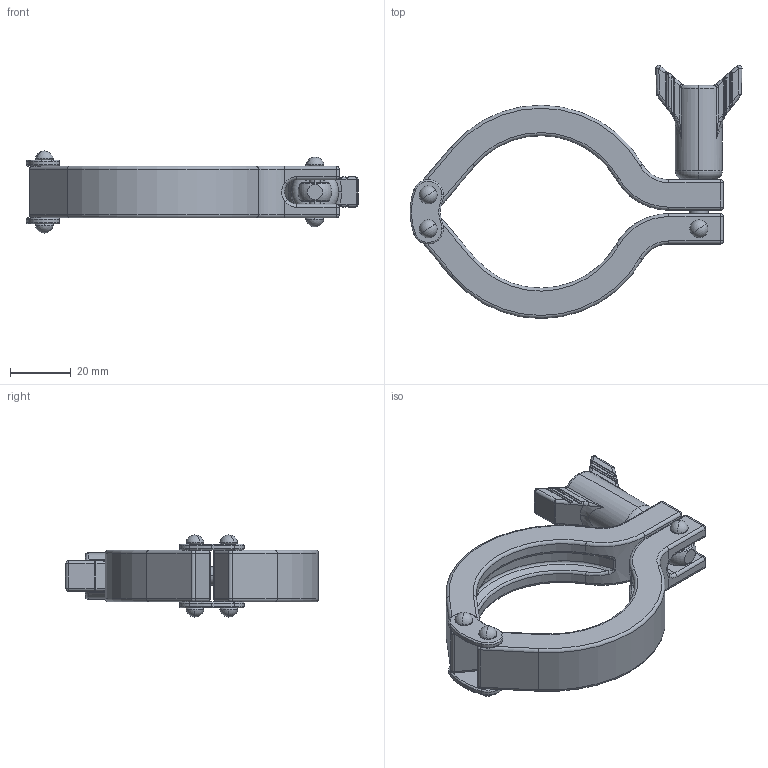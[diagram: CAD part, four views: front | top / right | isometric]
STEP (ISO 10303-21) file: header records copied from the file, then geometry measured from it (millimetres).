
FILE_DESCRIPTION (( 'STEP AP203' ), '1' );
FILE_NAME ('13MHHD3.0.STEP', '2020-02-13T03:13:50', ( '' ), ( '' ), 'SwSTEP 2.0', 'SolidWorks 2014', '' );
FILE_SCHEMA (( 'CONFIG_CONTROL_DESIGN' ));
Length unit declared in the file: millimetre
Products named in the file (10): 13MHHD-PARTS; 13MHHD-2; 13MHHD-PARTS-2; 13MHHD2.0-2; 13MHHD-PARTS-3; 13MHHD3.0; 13MHHM-PART-4; 13MHHD2.0-1; 13MHHD-PARTS-1; Wing Nut 11
Assembly tree (12 placements, depth 2):
  13MHHD3.0
    13MHHD2.0-1
    13MHHD2.0-2
    13MHHD-2  x2
    13MHHD-PARTS  x2
    13MHHD-PARTS-1  x2
    13MHHD-PARTS-2
    13MHHD-PARTS-3
    13MHHM-PART-4
    Wing Nut 11
Bounding box: 109.17 x 83.23 x 27 mm (x, y, z)
Volume: 43057 mm3; surface area: 21043.3 mm2
Topology: 12 solids, 12 shells, 471 faces, 1098 edges, 622 vertices
Faces by surface type: cylinder 177, torus 93, bspline 76, plane 73, sphere 48, cone 4
Entity records: 16559 total; most frequent: CARTESIAN_POINT 6203, DIRECTION 2029, ORIENTED_EDGE 1908, EDGE_CURVE 954, AXIS2_PLACEMENT_3D 876, VERTEX_POINT 550, CIRCLE 509, EDGE_LOOP 450
